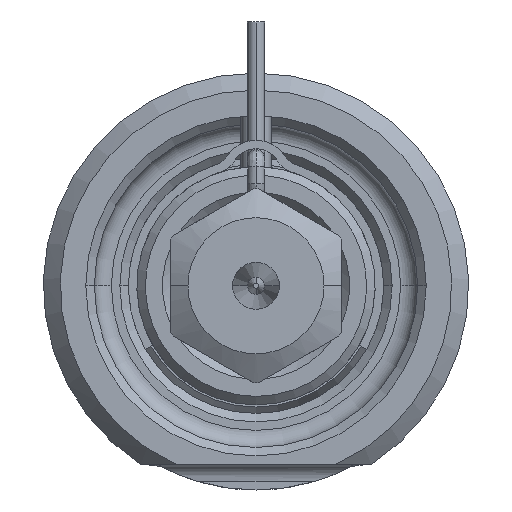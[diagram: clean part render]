
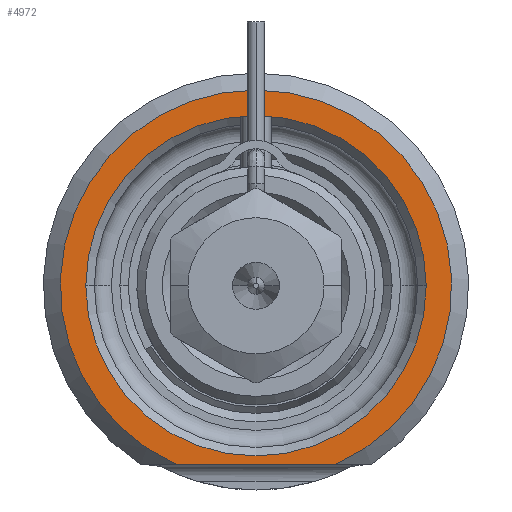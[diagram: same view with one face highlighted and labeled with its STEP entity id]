
A CAD part, front view. The second image highlights one B-rep face of the part: STEP entity #4972.
In plain terms, the highlighted planar face has unit normal (0, -1, 0).
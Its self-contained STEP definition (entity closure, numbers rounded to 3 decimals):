
#1192=CARTESIAN_POINT('',(0.,0.,0.));
#1193=DIRECTION('',(0.,-1.,0.));
#1194=DIRECTION('',(0.408,0.,-0.913));
#1195=AXIS2_PLACEMENT_3D('',#1192,#1193,#1194);
#1216=DIRECTION('',(1.,0.,0.));
#1217=VECTOR('',#1216,9.381);
#1218=CARTESIAN_POINT('',(-4.69,0.,-10.5));
#1219=LINE('',#1218,#1217);
#1220=CARTESIAN_POINT('',(0.,0.,0.));
#1221=DIRECTION('',(0.,1.,0.));
#1222=DIRECTION('',(-1.,0.,0.));
#1223=AXIS2_PLACEMENT_3D('',#1220,#1221,#1222);
#1225=CARTESIAN_POINT('',(0.,0.,0.));
#1226=DIRECTION('',(0.,1.,0.));
#1227=DIRECTION('',(1.,0.,0.));
#1228=AXIS2_PLACEMENT_3D('',#1225,#1226,#1227);
#3246=CARTESIAN_POINT('',(-10.,0.,0.));
#3247=CARTESIAN_POINT('',(10.,0.,0.));
#3248=VERTEX_POINT('',#3246);
#3249=VERTEX_POINT('',#3247);
#3304=CARTESIAN_POINT('',(-4.69,0.,-10.5));
#3305=CARTESIAN_POINT('',(4.69,0.,-10.5));
#3306=VERTEX_POINT('',#3304);
#3307=VERTEX_POINT('',#3305);
#4957=CARTESIAN_POINT('',(0.,0.,0.));
#4958=DIRECTION('',(0.,-1.,0.));
#4959=DIRECTION('',(1.,0.,0.));
#4960=AXIS2_PLACEMENT_3D('',#4957,#4958,#4959);
#4961=PLANE('',#4960);
#4962=ORIENTED_EDGE('',*,*,#4892,.F.);
#4963=ORIENTED_EDGE('',*,*,#4949,.F.);
#4964=EDGE_LOOP('',(#4962,#4963));
#4965=FACE_OUTER_BOUND('',#4964,.F.);
#4967=ORIENTED_EDGE('',*,*,#4966,.F.);
#4969=ORIENTED_EDGE('',*,*,#4968,.F.);
#4970=EDGE_LOOP('',(#4967,#4969));
#4971=FACE_BOUND('',#4970,.F.);
#4972=ADVANCED_FACE('',(#4965,#4971),#4961,.T.);
#1196=CIRCLE('',#1195,11.5);
#1224=CIRCLE('',#1223,10.);
#1229=CIRCLE('',#1228,10.);
#4892=EDGE_CURVE('',#3306,#3307,#1219,.T.);
#4949=EDGE_CURVE('',#3307,#3306,#1196,.T.);
#4966=EDGE_CURVE('',#3248,#3249,#1224,.T.);
#4968=EDGE_CURVE('',#3249,#3248,#1229,.T.);
